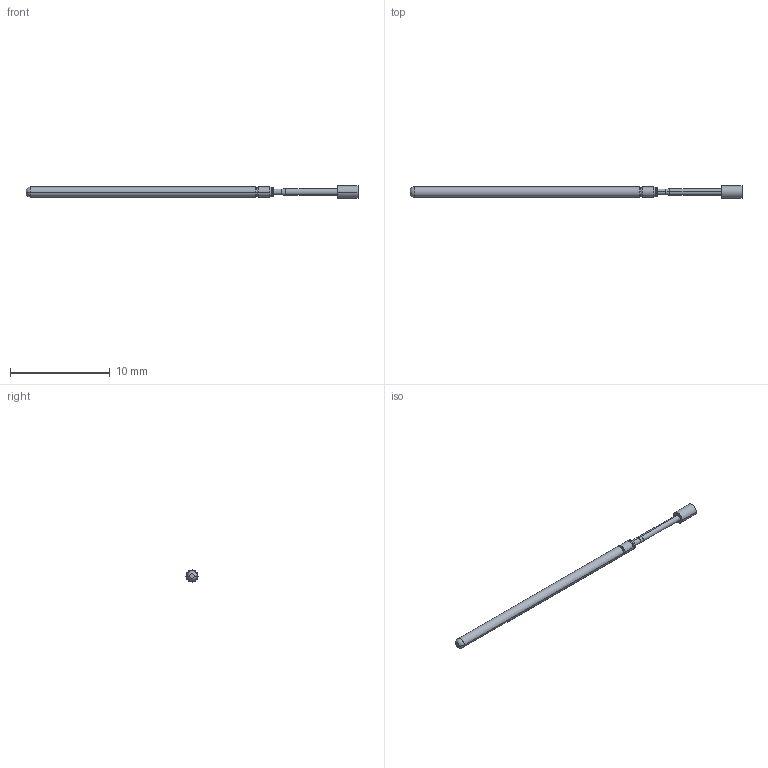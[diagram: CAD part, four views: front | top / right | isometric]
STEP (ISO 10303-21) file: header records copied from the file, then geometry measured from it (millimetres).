
FILE_DESCRIPTION (( 'STEP AP203' ), '1' );
FILE_NAME ('101024-053-922 (REST).STEP', '2022-11-18T09:49:49', ( '' ), ( '' ), 'SwSTEP 2.0', 'SolidWorks 2022', '' );
FILE_SCHEMA (( 'CONFIG_CONTROL_DESIGN' ));
Length unit declared in the file: inch
Products named in the file (1): 101024-053-922 (REST)
Bounding box: 33.27 x 1.22 x 1.22 mm (x, y, z)
Volume: 24.3 mm3; surface area: 103 mm2
Topology: 1 solids, 1 shells, 31 faces, 62 edges, 35 vertices
Faces by surface type: cylinder 12, cone 8, torus 6, plane 5
Entity records: 873 total; most frequent: DIRECTION 164, CARTESIAN_POINT 127, ORIENTED_EDGE 120, AXIS2_PLACEMENT_3D 72, EDGE_CURVE 60, CIRCLE 40, EDGE_LOOP 35, VERTEX_POINT 35
